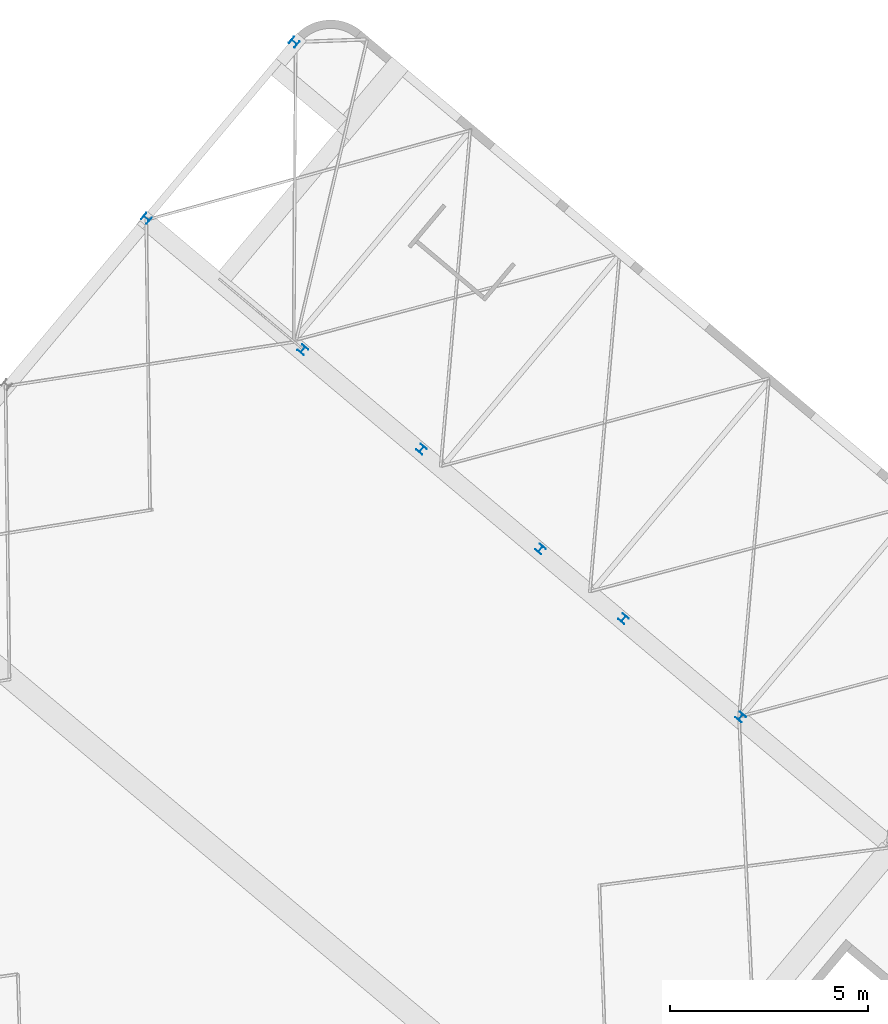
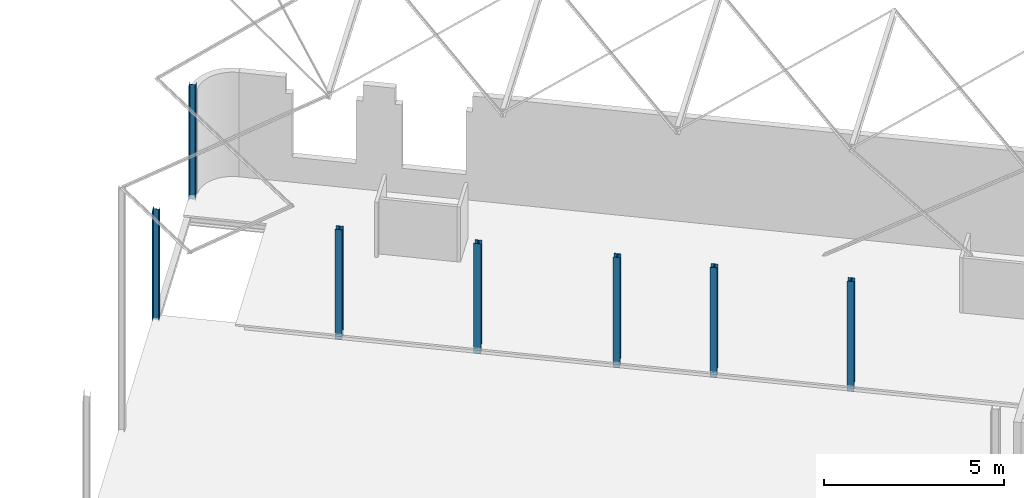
# One storey, part 7 of 25: 7 columns.
"""IFC2X3 building model written with IfcOpenShell, lengths in millimetres."""

from ifc_helpers import new_model, entity, si_unit, converted_unit, derived_unit, direction, frame, frame_2d, origin, origin_2d_with_axis, place, context, subcontext, project, spatial, i_section, extrude, source, transform, mapped, material, type_object, type_shapes, element, save


model = new_model("IFC2X3")

# Units and contexts
model_context = context("Model", 3, precision=0.01, world=origin(), true_north=direction((6.123031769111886e-17, 1.0)))
body_context = subcontext(model_context, "Body", "Model", "MODEL_VIEW")
ifc_project = project(units=[si_unit("LENGTHUNIT", "METRE", prefix="MILLI"), si_unit("AREAUNIT", "SQUARE_METRE"), si_unit("VOLUMEUNIT", "CUBIC_METRE"), derived_unit("MASSDENSITYUNIT", [(si_unit("MASSUNIT", "GRAM", prefix="KILO"), 1), (si_unit("LENGTHUNIT", "METRE"), -3)]), si_unit("MASSUNIT", "GRAM", prefix="KILO"), converted_unit("PLANEANGLEUNIT", "DEGREE", entity("IfcPlaneAngleMeasure", 0.017453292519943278), si_unit("PLANEANGLEUNIT", "RADIAN"), dimensions=[0, 0, 0, 0, 0, 0, 0])], contexts=[model_context])

# Site, building, storey
site_placement = place(None, origin())
site = spatial("IfcSite", under=ifc_project, at=site_placement, Name="Default", CompositionType="ELEMENT")
building_placement = place(site_placement, origin())
building = spatial("IfcBuilding", under=site, at=building_placement, Name="AT constructie", CompositionType="ELEMENT")
storey_placement = place(building_placement, frame((0.0, 0.0, 3864.0)))
storey = spatial("IfcBuildingStorey", under=building, at=storey_placement, Name="01 eerste verdieping", CompositionType="ELEMENT", Elevation=3864.0)

# Columns
ifc_material = material(Name="h2_staal_S355")
column_type_1 = type_object("IfcColumnType", Name="kolom_gen_HEA200", PredefinedType="COLUMN", material=ifc_material)
shared_shape_1 = source(origin(), body_context, "Body", "SweptSolid", [
    extrude(i_section(OverallWidth=199.99999999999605, OverallDepth=189.9999999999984, WebThickness=6.499999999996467, FlangeThickness=9.999999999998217, FilletRadius=18.0, at=frame_2d((6.629363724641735e-12, 5.5635496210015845e-12), x_axis=(1.0, 0.0))), frame((20549.13116687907, 53203.05448325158, 3593.0), z_axis=(0.0, 0.0, 1.0), x_axis=(0.6427876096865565, 0.7660444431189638, 0.0)), (0.0, 0.0, 1.0), 3764.999999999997),
])
type_shapes(column_type_1, [shared_shape_1])
column_1_placement = place(storey_placement, frame((0.0, 0.0, -3864.0)))
element("IfcColumn", 1, at=column_1_placement, inside=storey, type_object=column_type_1, material=ifc_material, Name="NLRS_28_SC_TLB_kolom HEA_gen_AT:kolom_gen_HEA200", ObjectType="NLRS_28_SC_TLB_kolom HEA_gen_AT:kolom_gen_HEA200", context=body_context, shape_type="MappedRepresentation", body=[
    mapped(shared_shape_1, transform((0.0, 0.0, 0.0), scale=1.0)),
])
column_type_2 = type_object("IfcColumnType", Name="kolom_gen_HEA200", PredefinedType="COLUMN", material=ifc_material)
shared_shape_2 = source(origin(), body_context, "Body", "SweptSolid", [
    extrude(i_section(OverallWidth=199.99999999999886, OverallDepth=189.9999999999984, WebThickness=6.499999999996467, FlangeThickness=10.000000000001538, FilletRadius=18.0, at=origin_2d_with_axis()), frame((24292.246919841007, 57663.926129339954, 3665.0), z_axis=(0.0, 0.0, 1.0), x_axis=(0.6427876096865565, 0.7660444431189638, 0.0)), (0.0, 0.0, 1.0), 3904.899999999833),
])
type_shapes(column_type_2, [shared_shape_2])
column_2_placement = place(storey_placement, frame((0.0, 0.0, -3864.0)))
element("IfcColumn", 2, at=column_2_placement, inside=storey, type_object=column_type_2, material=ifc_material, Name="NLRS_28_SC_TLB_kolom HEA_gen_AT:kolom_gen_HEA200", ObjectType="NLRS_28_SC_TLB_kolom HEA_gen_AT:kolom_gen_HEA200", context=body_context, shape_type="MappedRepresentation", body=[
    mapped(shared_shape_2, transform((0.0, 0.0, 0.0), scale=1.0)),
])
column_type_3 = type_object("IfcColumnType", Name="kolom_gen_HEA200", PredefinedType="COLUMN", material=ifc_material)
shared_shape_3 = source(origin(), body_context, "Body", "SweptSolid", [
    extrude(i_section(OverallWidth=199.9999999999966, OverallDepth=190.00000000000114, WebThickness=6.500000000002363, FlangeThickness=9.999999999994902, FilletRadius=18.0, at=origin_2d_with_axis()), frame((35590.41380752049, 40581.91976705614, 3603.0), z_axis=(0.0, 0.0, 1.0), x_axis=(0.766044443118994, -0.6427876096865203, 0.0)), (0.0, 0.0, 1.0), 3739.9999999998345),
])
type_shapes(column_type_3, [shared_shape_3])
column_3_placement = place(storey_placement, frame((0.0, 0.0, -3864.0)))
element("IfcColumn", 3, at=column_3_placement, inside=storey, type_object=column_type_3, material=ifc_material, Name="NLRS_28_SC_TLB_kolom HEA_gen_AT:kolom_gen_HEA200", ObjectType="NLRS_28_SC_TLB_kolom HEA_gen_AT:kolom_gen_HEA200", context=body_context, shape_type="MappedRepresentation", body=[
    mapped(shared_shape_3, transform((0.0, 0.0, 0.0), scale=1.0)),
])
column_type_4 = type_object("IfcColumnType", Name="kolom_gen_HEA200", PredefinedType="COLUMN", material=ifc_material)
shared_shape_4 = source(origin(), body_context, "Body", "SweptSolid", [
    extrude(i_section(OverallWidth=199.9999999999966, OverallDepth=190.00000000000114, WebThickness=6.5000000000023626, FlangeThickness=9.999999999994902, FilletRadius=18.0, at=frame_2d((-3.311129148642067e-12, -2.7782220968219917e-12), x_axis=(1.0, 0.0))), frame((32626.115294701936, 43069.83042457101, 3603.0), z_axis=(0.0, 0.0, 1.0), x_axis=(0.766044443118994, -0.6427876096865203, 0.0)), (0.0, 0.0, 1.0), 3739.9999999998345),
])
type_shapes(column_type_4, [shared_shape_4])
column_4_placement = place(storey_placement, frame((0.0, 0.0, -3864.0)))
element("IfcColumn", 4, at=column_4_placement, inside=storey, type_object=column_type_4, material=ifc_material, Name="NLRS_28_SC_TLB_kolom HEA_gen_AT:kolom_gen_HEA200", ObjectType="NLRS_28_SC_TLB_kolom HEA_gen_AT:kolom_gen_HEA200", context=body_context, shape_type="MappedRepresentation", body=[
    mapped(shared_shape_4, transform((0.0, 0.0, 0.0), scale=1.0)),
])
column_type_5 = type_object("IfcColumnType", Name="kolom_gen_HEA200", PredefinedType="COLUMN", material=ifc_material)
shared_shape_5 = source(origin(), body_context, "Body", "SweptSolid", [
    extrude(i_section(OverallWidth=199.9999999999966, OverallDepth=190.0000000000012, WebThickness=6.500000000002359, FlangeThickness=9.999999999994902, FilletRadius=18.0, at=frame_2d((-1.0658141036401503e-12, -1.220001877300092e-11), x_axis=(1.0, 0.0))), frame((27512.475154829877, 47360.11511120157, 3603.0), z_axis=(0.0, 0.0, 1.0), x_axis=(0.766044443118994, -0.6427876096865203, 0.0)), (0.0, 0.0, 1.0), 3739.9999999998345),
])
type_shapes(column_type_5, [shared_shape_5])
column_5_placement = place(storey_placement, frame((0.0, 0.0, -3864.0)))
element("IfcColumn", 5, at=column_5_placement, inside=storey, type_object=column_type_5, material=ifc_material, Name="NLRS_28_SC_TLB_kolom HEA_gen_AT:kolom_gen_HEA200", ObjectType="NLRS_28_SC_TLB_kolom HEA_gen_AT:kolom_gen_HEA200", context=body_context, shape_type="MappedRepresentation", body=[
    mapped(shared_shape_5, transform((0.0, 0.0, 0.0), scale=1.0)),
])
column_type_6 = type_object("IfcColumnType", Name="kolom_gen_HEA200", PredefinedType="COLUMN", material=ifc_material)
shared_shape_6 = source(origin(), body_context, "Body", "SweptSolid", [
    extrude(i_section(OverallWidth=199.9999999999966, OverallDepth=190.00000000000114, WebThickness=6.500000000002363, FlangeThickness=9.999999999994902, FilletRadius=18.0, at=frame_2d((1.4452439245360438e-11, -1.0487610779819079e-11), x_axis=(1.0, 0.0))), frame((24509.58093780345, 49879.842541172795, 3603.0), z_axis=(0.0, 0.0, 1.0), x_axis=(0.766044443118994, -0.6427876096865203, 0.0)), (0.0, 0.0, 1.0), 3739.9999999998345),
])
type_shapes(column_type_6, [shared_shape_6])
column_6_placement = place(storey_placement, frame((0.0, 0.0, -3864.0)))
element("IfcColumn", 6, at=column_6_placement, inside=storey, type_object=column_type_6, material=ifc_material, Name="NLRS_28_SC_TLB_kolom HEA_gen_AT:kolom_gen_HEA200", ObjectType="NLRS_28_SC_TLB_kolom HEA_gen_AT:kolom_gen_HEA200", context=body_context, shape_type="MappedRepresentation", body=[
    mapped(shared_shape_6, transform((0.0, 0.0, 0.0), scale=1.0)),
])
column_type_7 = type_object("IfcColumnType", Name="kolom_gen_HEA200", PredefinedType="COLUMN", material=ifc_material)
shared_shape_7 = source(origin(), body_context, "Body", "SweptSolid", [
    extrude(i_section(OverallWidth=199.9999999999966, OverallDepth=190.00000000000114, WebThickness=6.5000000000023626, FlangeThickness=9.999999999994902, FilletRadius=18.0, at=frame_2d((3.311129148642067e-12, 2.7782220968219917e-12), x_axis=(1.0, 0.0))), frame((30523.028610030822, 44833.960817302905, 3603.0), z_axis=(0.0, 0.0, 1.0), x_axis=(0.766044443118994, -0.6427876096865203, 0.0)), (0.0, 0.0, 1.0), 3754.9999999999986),
])
type_shapes(column_type_7, [shared_shape_7])
column_7_placement = place(storey_placement, frame((0.0, 0.0, -3864.0)))
element("IfcColumn", 7, at=column_7_placement, inside=storey, type_object=column_type_7, material=ifc_material, Name="NLRS_28_SC_TLB_kolom HEA_gen_AT:kolom_gen_HEA200", ObjectType="NLRS_28_SC_TLB_kolom HEA_gen_AT:kolom_gen_HEA200", context=body_context, shape_type="MappedRepresentation", body=[
    mapped(shared_shape_7, transform((0.0, 0.0, 0.0), scale=1.0)),
])

save(model, "model.ifc")
